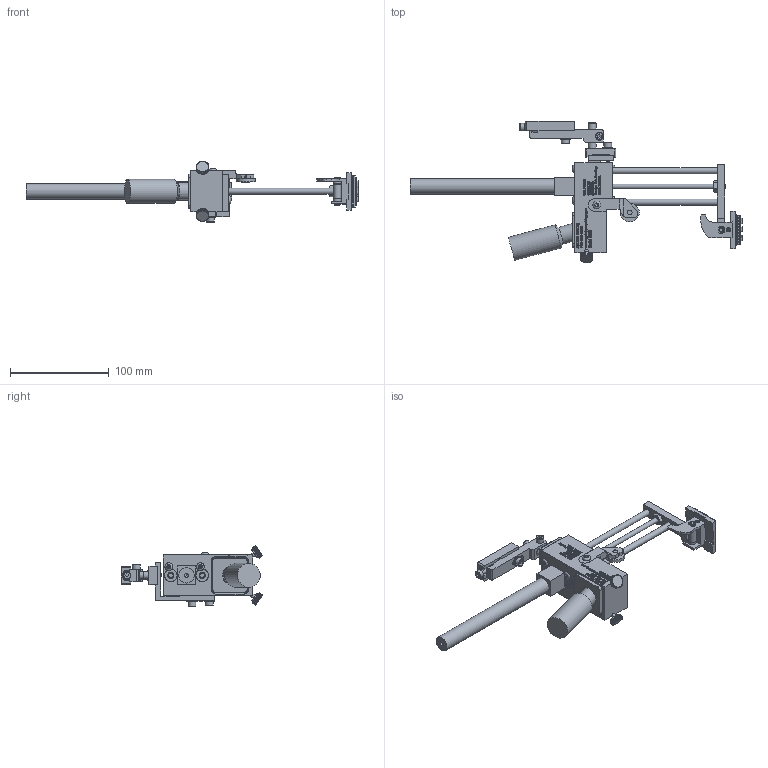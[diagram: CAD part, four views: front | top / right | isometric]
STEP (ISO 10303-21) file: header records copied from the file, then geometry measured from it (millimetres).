
FILE_DESCRIPTION((''),'2;1');
FILE_NAME('C:\Documents and Settings\Ron\My Documents\Inventor\Sprinter Drawing\Machines in Inventor\Model 1010\Type\Ext Str\E2\Brkt\Ext\Model 1010 ES 2 extended w brkt.stp','2009-01-21T09:03:32',('Ron'),(''),'Autodesk Inventor 2008','Autodesk Inventor 2008','');
FILE_SCHEMA(('AUTOMOTIVE_DESIGN { 1 0 10303 214 1 1 1 1 }'));
Length unit declared in the file: inch
Products named in the file (1): Model 1010 ES 2 extended w brkt
Bounding box: 335.86 x 142.74 x 61.82 mm (x, y, z)
Volume: 250866.2 mm3; surface area: 87126.6 mm2
Topology: 385 solids, 385 shells, 6612 faces, 16492 edges, 10230 vertices
Faces by surface type: plane 4582, bspline 1380, cylinder 550, cone 75, torus 21, sphere 4
Full cylindrical faces by diameter (mm): 2.845 x1, 3.175 x1, 3.505 x1, 3.708 x2, 4.064 x2, 4.166 x5, 4.75 x5, 4.775 x2, 4.826 x10, 5.08 x1, 5.156 x3, 6.223 x2, 6.325 x2, 6.35 x2, 6.604 x1, 6.68 x1, 6.858 x2, 7.62 x2, 7.925 x11, 7.938 x1, 9.017 x1, 9.525 x2, 10.312 x4, 10.922 x1, 15.494 x1, 17.526 x1, 19.05 x1, 24.13 x1
Entity records: 206602 total; most frequent: CARTESIAN_POINT 56630, ORIENTED_EDGE 32334, DIRECTION 25259, EDGE_CURVE 16167, VECTOR 12037, LINE 12037, VERTEX_POINT 10120, EDGE_LOOP 7231
